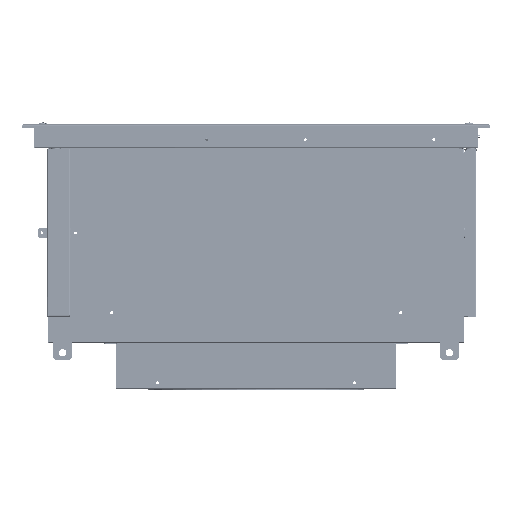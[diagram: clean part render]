
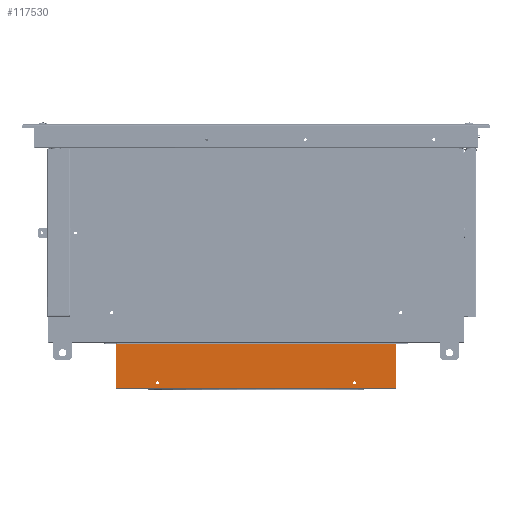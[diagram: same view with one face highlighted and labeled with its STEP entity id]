
A CAD part, front view. The second image highlights one B-rep face of the part: STEP entity #117530.
In plain terms, the highlighted planar face has unit normal (0, -1, 0) as drawn and (0, 1, 0) by its records, which use the part's own axes.
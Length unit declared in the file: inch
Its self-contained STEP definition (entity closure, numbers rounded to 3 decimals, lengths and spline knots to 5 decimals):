
#802 = EDGE_CURVE ( 'NONE', #156967, #39679, #60413, .T. ) ;
#3329 = CIRCLE ( 'NONE', #137590, 0.07 ) ;
#4381 = VERTEX_POINT ( 'NONE', #161457 ) ;
#5066 = LINE ( 'NONE', #131942, #89922 ) ;
#9114 = DIRECTION ( 'NONE',  ( 0., 0., 1. ) ) ;
#9657 = DIRECTION ( 'NONE',  ( 0., -1., 0. ) ) ;
#9764 = ORIENTED_EDGE ( 'NONE', *, *, #110472, .F. ) ;
#12684 = ORIENTED_EDGE ( 'NONE', *, *, #46732, .F. ) ;
#19128 = CARTESIAN_POINT ( 'NONE',  ( -7.1085, 7.1285, -2.26534 ) ) ;
#22027 = CARTESIAN_POINT ( 'NONE',  ( 0., 7.1285, 0. ) ) ;
#23444 = VERTEX_POINT ( 'NONE', #128274 ) ;
#23850 = CARTESIAN_POINT ( 'NONE',  ( -5., 7.1285, -1.9575 ) ) ;
#25770 = EDGE_CURVE ( 'NONE', #4381, #39679, #122849, .T. ) ;
#27346 = DIRECTION ( 'NONE',  ( 0., 0., -1. ) ) ;
#27736 = ORIENTED_EDGE ( 'NONE', *, *, #154900, .F. ) ;
#28556 = DIRECTION ( 'NONE',  ( 0., 0., 1. ) ) ;
#29233 = DIRECTION ( 'NONE',  ( 1., 0., 0. ) ) ;
#31668 = LINE ( 'NONE', #94326, #83278 ) ;
#32213 = DIRECTION ( 'NONE',  ( 0., 0., 1. ) ) ;
#32557 = CIRCLE ( 'NONE', #119475, 0.02 ) ;
#36010 = VERTEX_POINT ( 'NONE', #106975 ) ;
#37979 = VECTOR ( 'NONE', #9114, 39.37008 ) ;
#39679 = VERTEX_POINT ( 'NONE', #47084 ) ;
#40130 = DIRECTION ( 'NONE',  ( 0., 1., 0. ) ) ;
#41486 = VERTEX_POINT ( 'NONE', #128265 ) ;
#46732 = EDGE_CURVE ( 'NONE', #23444, #55627, #3329, .T. ) ;
#47084 = CARTESIAN_POINT ( 'NONE',  ( -7.1285, 7.1285, -0.066 ) ) ;
#47758 = VERTEX_POINT ( 'NONE', #128924 ) ;
#52532 = VECTOR ( 'NONE', #137031, 39.37008 ) ;
#55557 = AXIS2_PLACEMENT_3D ( 'NONE', #140663, #40130, #28556 ) ;
#55627 = VERTEX_POINT ( 'NONE', #23850 ) ;
#59956 = DIRECTION ( 'NONE',  ( 0., 0., -1. ) ) ;
#60413 = LINE ( 'NONE', #75226, #52532 ) ;
#66984 = DIRECTION ( 'NONE',  ( 0., 1., 0. ) ) ;
#71138 = EDGE_CURVE ( 'NONE', #55627, #23444, #84480, .T. ) ;
#71770 = CARTESIAN_POINT ( 'NONE',  ( -7.1285, 7.1285, -2.274 ) ) ;
#74743 = ORIENTED_EDGE ( 'NONE', *, *, #142317, .F. ) ;
#75226 = CARTESIAN_POINT ( 'NONE',  ( 7.1285, 7.1285, -0.066 ) ) ;
#76530 = EDGE_CURVE ( 'NONE', #80382, #47758, #32557, .T. ) ;
#79069 = EDGE_LOOP ( 'NONE', ( #121483, #12684 ) ) ;
#80382 = VERTEX_POINT ( 'NONE', #96208 ) ;
#81844 = DIRECTION ( 'NONE',  ( 0., 1., 0. ) ) ;
#82818 = EDGE_CURVE ( 'NONE', #41486, #112753, #120674, .T. ) ;
#83278 = VECTOR ( 'NONE', #29233, 39.37008 ) ;
#84480 = CIRCLE ( 'NONE', #160809, 0.07 ) ;
#85183 = ORIENTED_EDGE ( 'NONE', *, *, #82818, .F. ) ;
#85501 = FACE_BOUND ( 'NONE', #141927, .T. ) ;
#86151 = CARTESIAN_POINT ( 'NONE',  ( 5., 7.1285, -2.0975 ) ) ;
#89922 = VECTOR ( 'NONE', #32213, 39.37008 ) ;
#90917 = CARTESIAN_POINT ( 'NONE',  ( -5., 7.1285, -2.0275 ) ) ;
#91744 = DIRECTION ( 'NONE',  ( 0., 0., 1. ) ) ;
#93172 = EDGE_LOOP ( 'NONE', ( #108044, #27736, #124720, #9764, #104617, #125683 ) ) ;
#93194 = CARTESIAN_POINT ( 'NONE',  ( -5., 7.1285, -2.0275 ) ) ;
#94326 = CARTESIAN_POINT ( 'NONE',  ( 7.1285, 7.1285, -2.274 ) ) ;
#94999 = DIRECTION ( 'NONE',  ( 0., 0., 1. ) ) ;
#96208 = CARTESIAN_POINT ( 'NONE',  ( 7.1285, 7.1285, -2.26534 ) ) ;
#98560 = AXIS2_PLACEMENT_3D ( 'NONE', #19128, #132843, #145212 ) ;
#104617 = ORIENTED_EDGE ( 'NONE', *, *, #121625, .T. ) ;
#106975 = CARTESIAN_POINT ( 'NONE',  ( -7.12653, 7.1285, -2.274 ) ) ;
#107345 = CARTESIAN_POINT ( 'NONE',  ( 5., 7.1285, -2.0275 ) ) ;
#108044 = ORIENTED_EDGE ( 'NONE', *, *, #802, .F. ) ;
#109378 = FACE_BOUND ( 'NONE', #79069, .T. ) ;
#110472 = EDGE_CURVE ( 'NONE', #36010, #47758, #31668, .T. ) ;
#112753 = VERTEX_POINT ( 'NONE', #86151 ) ;
#114291 = CIRCLE ( 'NONE', #98560, 0.02 ) ;
#117530 = ADVANCED_FACE ( 'Face2', ( #85501, #109378, #159664 ), #134939, .F. ) ;
#117940 = DIRECTION ( 'NONE',  ( 0., 1., 0. ) ) ;
#119475 = AXIS2_PLACEMENT_3D ( 'NONE', #127898, #117940, #27346 ) ;
#120674 = CIRCLE ( 'NONE', #126017, 0.07 ) ;
#121124 = DIRECTION ( 'NONE',  ( 0., 0., 1. ) ) ;
#121483 = ORIENTED_EDGE ( 'NONE', *, *, #71138, .F. ) ;
#121625 = EDGE_CURVE ( 'NONE', #36010, #4381, #114291, .T. ) ;
#122849 = LINE ( 'NONE', #71770, #37979 ) ;
#123929 = AXIS2_PLACEMENT_3D ( 'NONE', #22027, #9657, #59956 ) ;
#124720 = ORIENTED_EDGE ( 'NONE', *, *, #76530, .T. ) ;
#125683 = ORIENTED_EDGE ( 'NONE', *, *, #25770, .T. ) ;
#126017 = AXIS2_PLACEMENT_3D ( 'NONE', #107345, #81844, #94999 ) ;
#127898 = CARTESIAN_POINT ( 'NONE',  ( 7.1085, 7.1285, -2.26534 ) ) ;
#128265 = CARTESIAN_POINT ( 'NONE',  ( 5., 7.1285, -1.9575 ) ) ;
#128274 = CARTESIAN_POINT ( 'NONE',  ( -5., 7.1285, -2.0975 ) ) ;
#128924 = CARTESIAN_POINT ( 'NONE',  ( 7.12653, 7.1285, -2.274 ) ) ;
#131080 = DIRECTION ( 'NONE',  ( 0., 1., 0. ) ) ;
#131942 = CARTESIAN_POINT ( 'NONE',  ( 7.1285, 7.1285, -2.274 ) ) ;
#132843 = DIRECTION ( 'NONE',  ( 0., 1., 0. ) ) ;
#134939 = PLANE ( 'NONE',  #123929 ) ;
#137031 = DIRECTION ( 'NONE',  ( -1., 0., 0. ) ) ;
#137590 = AXIS2_PLACEMENT_3D ( 'NONE', #90917, #66984, #91744 ) ;
#140663 = CARTESIAN_POINT ( 'NONE',  ( 5., 7.1285, -2.0275 ) ) ;
#141927 = EDGE_LOOP ( 'NONE', ( #85183, #74743 ) ) ;
#142317 = EDGE_CURVE ( 'NONE', #112753, #41486, #150380, .T. ) ;
#143995 = CARTESIAN_POINT ( 'NONE',  ( 7.1285, 7.1285, -0.066 ) ) ;
#145212 = DIRECTION ( 'NONE',  ( 0., 0., -1. ) ) ;
#150380 = CIRCLE ( 'NONE', #55557, 0.07 ) ;
#154900 = EDGE_CURVE ( 'NONE', #80382, #156967, #5066, .T. ) ;
#156967 = VERTEX_POINT ( 'NONE', #143995 ) ;
#159664 = FACE_OUTER_BOUND ( 'NONE', #93172, .T. ) ;
#160809 = AXIS2_PLACEMENT_3D ( 'NONE', #93194, #131080, #121124 ) ;
#161457 = CARTESIAN_POINT ( 'NONE',  ( -7.1285, 7.1285, -2.26534 ) ) ;
